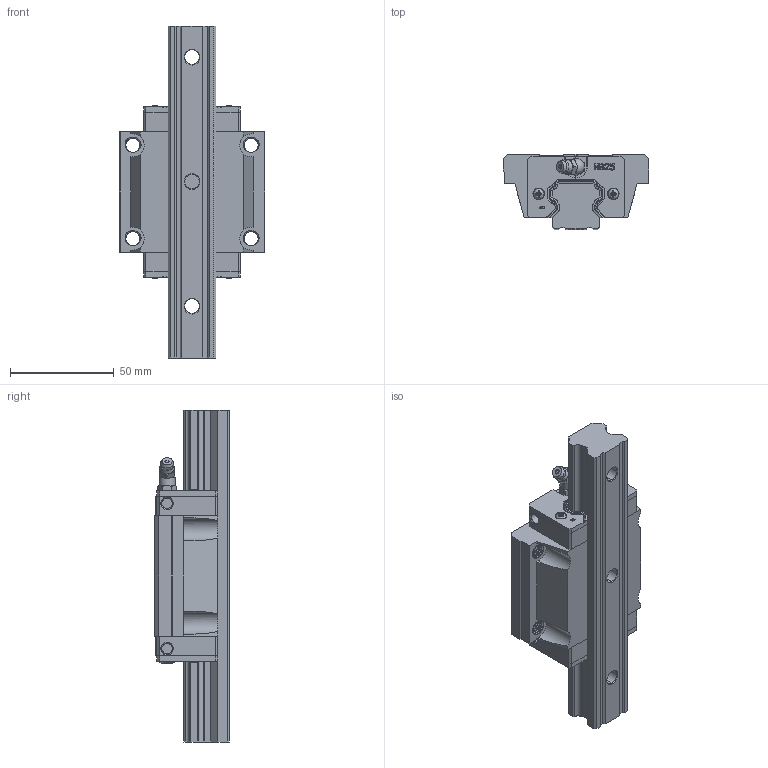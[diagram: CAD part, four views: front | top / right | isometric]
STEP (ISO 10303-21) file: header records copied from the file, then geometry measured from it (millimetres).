
FILE_DESCRIPTION(/* description */ (''),/* implementation_level */ '2;1');
FILE_NAME(/* name */ 'HBW25CC.stp',/* time_stamp */ '2024-09-29T20:56:28+08:00',/* author */ (''),/* organization */ (''),/* preprocessor_version */ 'ST-DEVELOPER v16.7',/* originating_system */ 'SIEMENS PLM Software NX 12.0',/* authorisation */ '');
FILE_SCHEMA (('AUTOMOTIVE_DESIGN { 1 0 10303 214 3 1 1 1 }'));
Products named in the file (3): HBW25CC; HBR25; HBW25CC_stp
Assembly tree (2 placements, depth 2):
  HBW25CC_stp
    HBR25
    HBW25CC
Bounding box: 70 x 36 x 160 mm (x, y, z)
Volume: 175982.1 mm3; surface area: 46061.5 mm2
Topology: 2 solids, 13 shells, 1003 faces, 2640 edges, 1706 vertices
Faces by surface type: plane 593, cylinder 153, extrusion 115, cone 72, bspline 45, torus 22, sphere 3
Full cylindrical faces by diameter (mm): 3 x1, 3.7 x1, 5 x4, 5.3 x4, 6.5 x2, 7.8 x1, 8.002 x2, 8.3 x1
Entity records: 74262 total; most frequent: CARTESIAN_POINT 44426, ORIENTED_EDGE 5110, DIRECTION 4151, EDGE_CURVE 2555, VERTEX_POINT 1676, VECTOR 1659, LINE 1544, AXIS2_PLACEMENT_3D 1246
